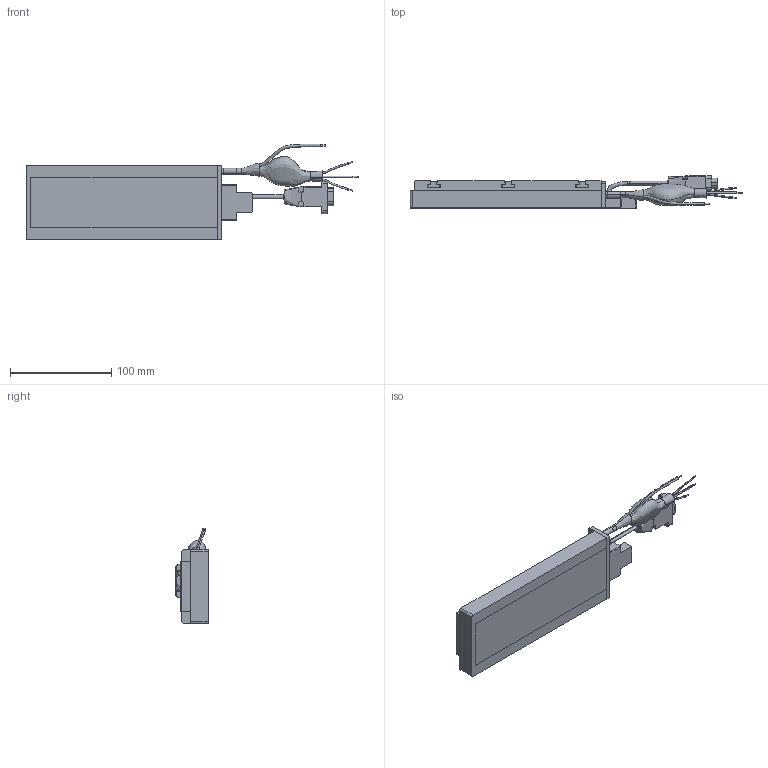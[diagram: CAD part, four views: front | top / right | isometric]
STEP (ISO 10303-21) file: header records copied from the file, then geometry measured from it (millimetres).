
FILE_DESCRIPTION (( 'STEP AP214' ), '1' );
FILE_NAME ('PIX200-027-050.STEP', '2016-05-10T03:12:47', ( '' ), ( '' ), 'SwSTEP 2.0', 'SolidWorks 2015', '' );
FILE_SCHEMA (( 'AUTOMOTIVE_DESIGN' ));
Length unit declared in the file: millimetre
Products named in the file (12): FERRITE CORE (FC2); 001SH-0000-000_CUSTOMER ; MALE D-SUB 9PIN CONNECTOR(HALL); HEX SHCS M3x0.5x10(S.S)_B18.3.1M - 3 x 0.5 x 10 Hex SHCS -- 10CHX; CBL_MTR_HALL_DS_5C_SA (#3614-1); 001SH-0000-002_CUSTOMER; CBL_MTR_PWR_SS_4C2C_SA (#3620-1); 001S200-027-050-003_CUSTOMER; 001S200-027-050-004; 001S200-040-050-0000-003_CUSTOMER; 001S200-027-0000-001_CUSTOMER_50; PIX200-027-050
Assembly tree (16 placements, depth 3):
  PIX200-027-050
    001S200-027-0000-001_CUSTOMER_50
    001S200-040-050-0000-003_CUSTOMER  x3
    001S200-027-050-004
    001S200-027-050-003_CUSTOMER
    CBL_MTR_PWR_SS_4C2C_SA (#3620-1)
    001SH-0000-000_CUSTOMER 
      001SH-0000-002_CUSTOMER
      CBL_MTR_HALL_DS_5C_SA (#3614-1)
      HEX SHCS M3x0.5x10(S.S)_B18.3.1M - 3 x 0.5 x 10 Hex SHCS -- 10CHX  x2
      MALE D-SUB 9PIN CONNECTOR(HALL)
    HEX SHCS M3x0.5x10(S.S)_B18.3.1M - 3 x 0.5 x 10 Hex SHCS -- 10CHX  x2
    FERRITE CORE (FC2)
Bounding box: 328 x 31.73 x 94.74 mm (x, y, z)
Volume: 529043 mm3; surface area: 97564.6 mm2
Topology: 15 solids, 15 shells, 511 faces, 1256 edges, 791 vertices
Faces by surface type: plane 272, cylinder 134, cone 43, torus 28, bspline 23, sphere 11
Entity records: 15515 total; most frequent: CARTESIAN_POINT 5165, DIRECTION 1950, ORIENTED_EDGE 1900, EDGE_CURVE 950, AXIS2_PLACEMENT_3D 692, VERTEX_POINT 610, LINE 566, VECTOR 566
